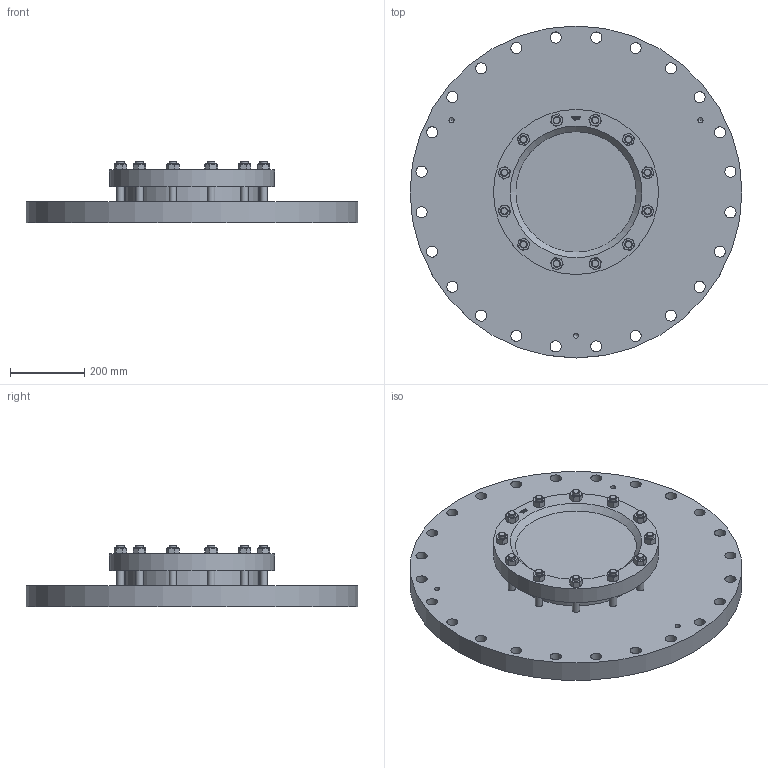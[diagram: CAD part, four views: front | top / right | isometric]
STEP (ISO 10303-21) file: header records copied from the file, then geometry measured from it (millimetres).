
FILE_DESCRIPTION(/* description */ (''),/* implementation_level */ '2;1');
FILE_NAME(/* name */ 'W:\Konstruktion_ACI\325\_STEP\325-700-10.stp',/* time_stamp */ '2022-03-02T17:27:53+01:00',/* author */ ('koslowksi'),/* organization */ (''),/* preprocessor_version */ 'ST-DEVELOPER v16.1',/* originating_system */ 'Autodesk Inventor 2016',/* authorisation */ '');
FILE_SCHEMA (('AUTOMOTIVE_DESIGN { 1 0 10303 214 3 1 1 }'));
Length unit declared in the file: millimetre
Products named in the file (1): 325-700-10
Bounding box: 895 x 895 x 167 mm (x, y, z)
Volume: 44994287.5 mm3; surface area: 1792481.2 mm2
Topology: 1 solids, 1 shells, 553 faces, 1392 edges, 887 vertices
Faces by surface type: plane 231, cone 160, bspline 108, cylinder 54
Full cylindrical faces by diameter (mm): 13.835 x3, 20 x24, 30 x24, 359 x1, 445 x1, 895 x1
Entity records: 16694 total; most frequent: CARTESIAN_POINT 4665, ORIENTED_EDGE 2566, DIRECTION 1937, EDGE_CURVE 1283, VERTEX_POINT 848, EDGE_LOOP 741, AXIS2_PLACEMENT_3D 712, STYLED_ITEM 553
